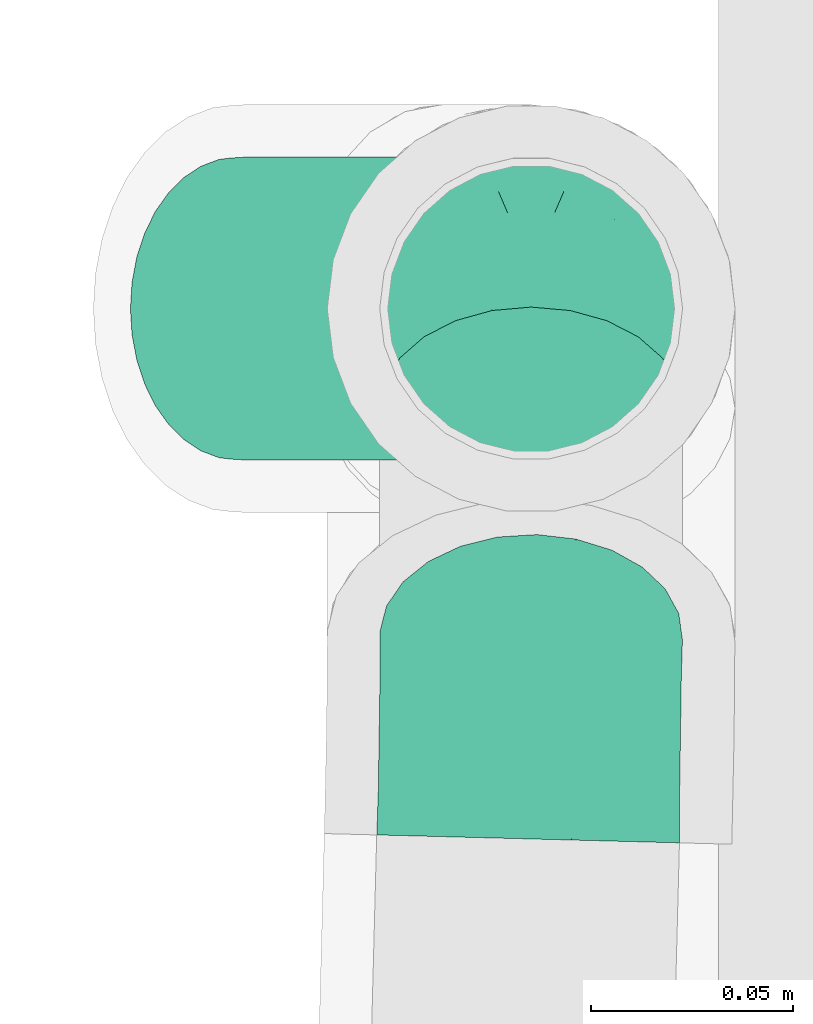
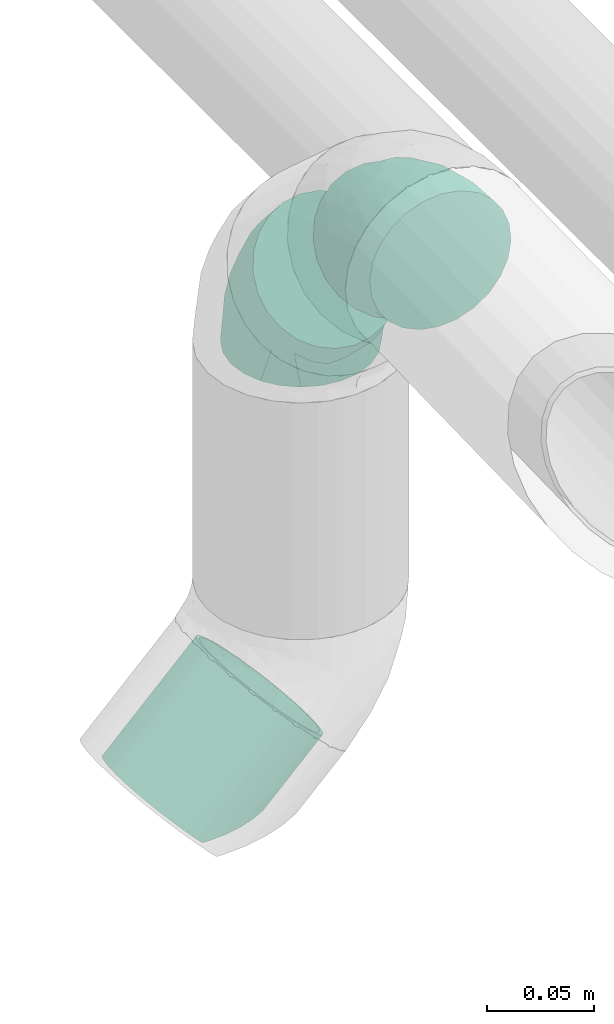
# One storey, part 146 of 156: 2 flow fittings, 1 flow segment.
"""IFC2X3 building model written with IfcOpenShell, lengths in millimetres."""

from ifc_helpers import new_model, entity, si_unit, converted_unit, derived_unit, direction, frame, origin_with_axes, place, context, subcontext, project, spatial, open_shell, faceted_brep, surface_model, source, transform, mapped, type_object, element, save


model = new_model("IFC2X3")

# Units and contexts
model_context = context("Model", 3, precision=0.01, world=frame((0.0, 4.29681676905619e-09, 0.0)), true_north=direction((4.01073788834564e-13, 1.0)))
plan_context = context("Plan", 3, precision=0.01, world=frame((0.0, 4.29681676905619e-09, 0.0)), true_north=direction((4.01073788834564e-13, 1.0)))
body_context = subcontext(model_context, "Body", "Model", "MODEL_VIEW")
ifc_project = project(units=[converted_unit("PLANEANGLEUNIT", "DEGREE", entity("IfcPositiveLengthMeasure", 0.0174532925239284), si_unit("PLANEANGLEUNIT", "RADIAN"), dimensions=[0, 0, 0, 0, 0, 0, 0]), si_unit("AREAUNIT", "SQUARE_METRE"), si_unit("LENGTHUNIT", "METRE", prefix="MILLI"), si_unit("MASSUNIT", "GRAM", prefix="KILO"), si_unit("POWERUNIT", "WATT"), si_unit("PRESSUREUNIT", "PASCAL", prefix="KILO"), si_unit("FORCEUNIT", "NEWTON", prefix="KILO"), si_unit("ELECTRICVOLTAGEUNIT", "VOLT"), si_unit("ELECTRICCURRENTUNIT", "AMPERE"), si_unit("THERMODYNAMICTEMPERATUREUNIT", "DEGREE_CELSIUS"), si_unit("TIMEUNIT", "SECOND"), si_unit("VOLUMEUNIT", "CUBIC_METRE"), derived_unit("LINEARVELOCITYUNIT", [(si_unit("LENGTHUNIT", "METRE"), 1), (si_unit("TIMEUNIT", "SECOND"), -1)]), derived_unit("VOLUMETRICFLOWRATEUNIT", [(si_unit("VOLUMEUNIT", "CUBIC_METRE"), 1), (si_unit("TIMEUNIT", "SECOND"), -1)]), derived_unit("THERMALTRANSMITTANCEUNIT", [(si_unit("POWERUNIT", "WATT"), 1), (si_unit("THERMODYNAMICTEMPERATUREUNIT", "KELVIN"), -1), (si_unit("AREAUNIT", "SQUARE_METRE"), -1)]), derived_unit("SOUNDPRESSUREUNIT", [(si_unit("PRESSUREUNIT", "PASCAL"), 1)])], contexts=[model_context, plan_context])

# Site, building, storey
site_placement = place(None, frame((0.0, -4.29681676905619e-09, 0.0), z_axis=(0.0, 0.0, 1.0), x_axis=(1.0, 0.0, 0.0)))
site = spatial("IfcSite", under=ifc_project, at=site_placement, CompositionType="ELEMENT")
building_placement = place(site_placement, frame((0.0, 4.29681676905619e-09, 0.0), z_axis=(0.0, 0.0, 1.0), x_axis=(1.0, 0.0, 0.0)))
building = spatial("IfcBuilding", under=site, at=building_placement, Name="mc-building", CompositionType="ELEMENT")
storey_placement = place(building_placement, frame((0.0, 0.0, 205200.0), z_axis=(0.0, 0.0, 1.0), x_axis=(1.0, 0.0, 0.0)))
storey = spatial("IfcBuildingStorey", under=building, at=storey_placement, Name="Nivå D + 1,2 m", CompositionType="ELEMENT", Elevation=205200.0)

# Flow fittings
pipe_fitting_type = type_object("IfcPipeFittingType", Name="magi_pipe_elbow_short_001", PredefinedType="BEND")
shared_shape_1 = source(origin_with_axes(), body_context, "Body", "SurfaceModel", [
    surface_model("IfcShellBasedSurfaceModel", [(-33.34172, 18.75, -32.47595), (-33.34172, 9.70571, -36.22222), (-33.34172, 0.0, -37.5), (-33.34172, 26.5165, -26.5165), (-33.34172, 36.22222, -9.70571), (-33.34172, 32.47595, -18.75), (-33.34172, -26.5165, -26.5165), (-33.34172, -32.47595, -18.75), (-33.34172, -18.75, -32.47595), (-33.34172, -9.70571, -36.22222), (-33.34172, -36.22222, -9.70571), (-33.34172, -37.5, 0.0), (-33.34172, -36.22222, 9.70571), (-33.34172, 36.22222, 9.70571), (-33.34172, 37.5, 0.0), (-33.34172, 26.5165, 26.5165), (-33.34172, 32.47595, 18.75), (-33.34172, 9.70571, 36.22222), (-33.34172, 18.75, 32.47595), (-33.34172, 0.0, 37.5), (-33.34172, -32.47595, 18.75), (-33.34172, -26.5165, 26.5165), (-33.34172, -18.75, 32.47595), (-33.34172, -9.70571, 36.22222), (22.33777, 24.75266, -37.5), (15.13231, 31.25515, -36.22222), (8.4179, 37.3145, -32.47595), (2.6521, 42.51778, -26.5165), (-1.77216, 46.5104, -18.75), (-4.55336, 49.02026, -9.70571), (46.44769, 2.99493, -18.75), (36.25764, 12.19083, -32.47595), (29.54322, 18.25018, -36.22222), (42.02344, 6.98754, -26.5165), (50.17751, -0.37101, 0.0), (49.22889, 0.48506, -9.70571), (49.22889, 0.48506, 9.70571), (2.6521, 42.51778, 26.5165), (-5.50197, 49.87633, 0.0), (-4.55336, 49.02026, 9.70571), (-1.77216, 46.5104, 18.75), (8.4179, 37.3145, 32.47595), (15.13231, 31.25515, 36.22222), (42.02344, 6.98754, 26.5165), (46.44769, 2.99493, 18.75), (36.25764, 12.19083, 32.47595), (29.54322, 18.25018, 36.22222), (22.33777, 24.75266, 37.5), (9.84589, -22.14767, 20.63086), (-9.65263, -21.08257, 28.84753), (-14.18705, -28.69201, 21.89222), (-14.83381, -34.90242, 0.0), (-2.37299, -33.15354, 0.0), (-9.38663, -34.38646, 6.23063), (30.80557, -8.69026, 21.89222), (-15.85298, -13.63716, 34.21622), (3.82453, -8.60302, 33.67881), (9.50684, 18.39593, 37.28531), (-12.80216, -3.56049, 36.98373), (-4.05464, 9.12064, 37.38738), (-20.02626, 5.26681, 37.28531), (-11.60667, 26.10843, 30.72816), (-18.68303, 31.44121, 23.72509), (20.74507, 2.63273, 34.21622), (-16.29432, 15.62002, 35.09195), (-7.38989, 33.97285, 26.57897), (5.46097, -27.30318, 14.89545), (-7.90331, -32.24576, 12.87247), (6.96624, -29.07566, 8.12786), (-16.73732, 37.6495, 15.54781), (31.81698, -16.06914, 6.23063), (35.84944, -12.37086, 0.0), (-15.74613, 40.92093, 7.95495), (11.91489, -26.80177, 0.0), (11.22027, 7.11883, 36.98373), (22.11847, -6.95853, 28.84753), (0.31382, 23.29122, 35.06101), (29.23396, -15.73615, 12.87247), (-18.10833, 40.73349, 0.0), (6.60802, -14.8643, 29.34792), (26.20277, -20.45001, 0.0), (19.568, -23.7626, 5.8407), (-12.80216, -3.56049, -36.98373), (6.96624, -29.07566, -8.12786), (-9.38663, -34.38646, -6.23063), (-7.90331, -32.24576, -12.87246), (11.22028, 7.11883, -36.98373), (-20.02626, 5.26681, -37.28531), (-10.82478, 34.93465, -23.72509), (-20.27025, 28.24681, -26.57897), (22.11848, -6.95853, -28.84753), (-16.73732, 37.6495, -15.54781), (29.23397, -15.73615, -12.87247), (-19.83006, 39.10538, -7.95495), (-0.67958, 22.56165, -35.09195), (-17.50149, 15.37131, -35.06101), (-11.60667, 26.10843, -30.72817), (-14.18705, -28.69201, -21.89222), (-9.65263, -21.08257, -28.84753), (6.60802, -14.8643, -29.34792), (9.84589, -22.14767, -20.63086), (-15.85298, -13.63716, -34.21622), (20.74507, 2.63273, -34.21622), (3.82453, -8.60302, -33.67881), (31.81698, -16.06914, -6.23063), (9.50684, 18.39593, -37.28531), (5.46097, -27.30318, -14.89545), (30.80557, -8.69026, -21.89222), (-4.05464, 9.12064, -37.38738), (19.568, -23.7626, -5.8407)], [open_shell([[[0, 1, 2]], [[3, 0, 2]], [[4, 5, 3]], [[6, 3, 2]], [[4, 3, 7]], [[8, 6, 9]], [[6, 2, 9]], [[10, 11, 7]], [[3, 6, 7]], [[7, 11, 12]], [[12, 4, 7]], [[13, 14, 15]], [[16, 13, 15]], [[17, 18, 15]], [[14, 17, 15]], [[19, 17, 14]], [[20, 21, 12]], [[22, 12, 21]], [[23, 19, 22]], [[12, 22, 19]], [[19, 14, 12]], [[4, 12, 14]], [[24, 25, 26]], [[24, 26, 27]], [[27, 28, 29]], [[24, 27, 30]], [[30, 27, 29]], [[24, 31, 32]], [[24, 33, 31]], [[30, 34, 35]], [[33, 24, 30]], [[30, 36, 34]], [[30, 29, 37]], [[37, 38, 39]], [[37, 39, 40]], [[37, 41, 42]], [[37, 36, 30]], [[36, 37, 42]], [[36, 43, 44]], [[43, 36, 45]], [[36, 46, 45]], [[46, 36, 47]], [[36, 42, 47]], [[37, 29, 38]], [[48, 49, 50]], [[51, 52, 53]], [[22, 21, 49]], [[44, 43, 54]], [[55, 49, 56]], [[50, 49, 21]], [[47, 42, 57]], [[23, 22, 55]], [[58, 59, 60]], [[19, 23, 58]], [[15, 61, 62]], [[45, 46, 63]], [[60, 17, 19]], [[18, 64, 61]], [[12, 51, 53]], [[37, 65, 41]], [[66, 67, 68]], [[61, 15, 18]], [[21, 20, 50]], [[16, 62, 69]], [[13, 16, 69]], [[36, 70, 71]], [[72, 14, 13]], [[53, 68, 67]], [[52, 73, 68]], [[18, 17, 64]], [[47, 57, 74]], [[43, 45, 75]], [[40, 39, 69]], [[47, 74, 46]], [[50, 67, 66]], [[43, 75, 54]], [[59, 57, 76]], [[75, 45, 63]], [[20, 67, 50]], [[70, 36, 77]], [[48, 54, 75]], [[60, 64, 17]], [[54, 48, 77]], [[13, 69, 72]], [[20, 12, 67]], [[78, 72, 38]], [[49, 79, 56]], [[39, 72, 69]], [[63, 74, 56]], [[40, 69, 62]], [[74, 58, 56]], [[62, 65, 40]], [[58, 74, 59]], [[42, 41, 76]], [[76, 61, 64]], [[55, 58, 23]], [[16, 15, 62]], [[77, 36, 44]], [[77, 44, 54]], [[79, 48, 75]], [[65, 62, 61]], [[61, 76, 41]], [[59, 76, 64]], [[49, 55, 22]], [[58, 55, 56]], [[74, 63, 46]], [[75, 63, 56]], [[12, 11, 51]], [[52, 68, 53]], [[12, 53, 67]], [[80, 70, 81]], [[81, 73, 80]], [[66, 77, 48]], [[71, 70, 80]], [[71, 34, 36]], [[77, 66, 81]], [[77, 81, 70]], [[73, 81, 68]], [[58, 60, 19]], [[64, 60, 59]], [[76, 57, 42]], [[74, 57, 59]], [[66, 68, 81]], [[50, 66, 48]], [[48, 79, 49]], [[75, 56, 79]], [[38, 72, 39]], [[72, 78, 14]], [[41, 65, 61]], [[40, 65, 37]], [[82, 9, 2]], [[83, 84, 85]], [[24, 32, 86]], [[1, 87, 2]], [[88, 89, 5]], [[31, 33, 90]], [[91, 88, 5]], [[30, 35, 92]], [[4, 93, 91]], [[26, 25, 94]], [[10, 84, 51]], [[0, 95, 1]], [[84, 10, 85]], [[27, 96, 88]], [[85, 7, 97]], [[97, 6, 98]], [[6, 8, 98]], [[99, 100, 98]], [[10, 7, 85]], [[6, 97, 7]], [[101, 8, 9]], [[102, 86, 32]], [[29, 28, 91]], [[82, 86, 103]], [[14, 78, 93]], [[100, 97, 98]], [[38, 29, 93]], [[101, 82, 103]], [[27, 26, 96]], [[91, 5, 4]], [[28, 88, 91]], [[101, 98, 8]], [[94, 96, 26]], [[87, 82, 2]], [[96, 94, 95]], [[89, 0, 3]], [[35, 71, 104]], [[105, 25, 24]], [[102, 32, 31]], [[106, 83, 85]], [[33, 107, 90]], [[103, 102, 90]], [[33, 30, 107]], [[108, 105, 86]], [[107, 100, 90]], [[86, 82, 108]], [[104, 71, 80]], [[105, 94, 25]], [[108, 87, 95]], [[83, 52, 84]], [[100, 106, 97]], [[90, 99, 103]], [[30, 92, 107]], [[29, 91, 93]], [[100, 107, 92]], [[28, 27, 88]], [[89, 88, 96]], [[96, 95, 0]], [[108, 95, 94]], [[82, 101, 9]], [[98, 101, 103]], [[90, 102, 31]], [[86, 102, 103]], [[51, 84, 52]], [[51, 11, 10]], [[52, 83, 73]], [[92, 109, 106]], [[83, 109, 73]], [[92, 104, 109]], [[35, 34, 71]], [[109, 104, 80]], [[35, 104, 92]], [[73, 109, 80]], [[109, 83, 106]], [[95, 87, 1]], [[82, 87, 108]], [[86, 105, 24]], [[94, 105, 108]], [[97, 106, 85]], [[92, 106, 100]], [[100, 99, 90]], [[98, 103, 99]], [[14, 93, 4]], [[93, 78, 38]], [[0, 89, 96]], [[5, 89, 3]]])]),
])
flow_fitting_1_placement = place(storey_placement, frame((347962.03069, 461168.55164, 4269.91381999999), z_axis=(1.0, 0.0, 0.0), x_axis=(0.0, 0.0, 1.0)))
element("IfcFlowFitting", 1, at=flow_fitting_1_placement, inside=storey, type_object=pipe_fitting_type, Name="magi_pipe_elbow_short_001", context=body_context, shape_type="MappedRepresentation", body=[
    mapped(shared_shape_1, transform((0.0, 0.0, 0.0), scale=1.0)),
])
shared_shape_2 = source(origin_with_axes(), body_context, "Body", "SurfaceModel", [
    surface_model("IfcShellBasedSurfaceModel", [(-28.85444, 18.75, -32.47595), (-28.85444, 9.70571, -36.22222), (-28.85444, 0.0, -37.5), (-28.85444, 26.5165, -26.5165), (-28.85444, 36.22222, -9.70571), (-28.85444, 32.47595, -18.75), (-28.85444, -26.5165, -26.5165), (-28.85444, -32.47595, -18.75), (-28.85444, -18.75, -32.47595), (-28.85444, -9.70571, -36.22222), (-28.85444, -36.22222, -9.70571), (-28.85444, -37.5, 0.0), (-28.85444, -36.22222, 9.70571), (-28.85444, 36.22222, 9.70571), (-28.85444, 37.5, 0.0), (-28.85444, 26.5165, 26.5165), (-28.85444, 32.47595, 18.75), (-28.85444, 9.70571, 36.22222), (-28.85444, 18.75, 32.47595), (-28.85444, 0.0, 37.5), (-28.85444, -32.47595, 18.75), (-28.85444, -26.5165, 26.5165), (-28.85444, -18.75, 32.47595), (-28.85444, -9.70571, 36.22222), (21.41401, 19.33957, -37.5), (14.90879, 26.54256, -36.22222), (8.84689, 33.25468, -32.47595), (3.64143, 39.0185, -26.5165), (45.6918, -7.54236, 9.70571), (-0.35287, 43.44124, -18.75), (39.18658, -0.33937, -26.5165), (43.18088, -4.76211, -18.75), (33.98112, 5.42446, -32.47595), (27.91922, 12.13658, -36.22222), (46.54823, -8.49065, 0.0), (45.6918, -7.54236, -9.70571), (-2.86379, 46.22149, -9.70571), (3.64143, 39.0185, 26.5165), (-3.72022, 47.16979, 0.0), (-2.86379, 46.22149, 9.70571), (-0.35287, 43.44124, 18.75), (8.84689, 33.25468, 32.47595), (14.90879, 26.54256, 36.22222), (39.18658, -0.33937, 26.5165), (43.18088, -4.76211, 18.75), (21.41401, 19.33957, 37.5), (33.98112, 5.42446, 32.47595), (27.91922, 12.13658, 36.22222), (-10.94248, -28.7915, 22.05899), (-5.56371, -32.62277, 13.16239), (9.19624, -23.90336, 21.14436), (-10.29122, -35.21601, 0.0), (-1.58358, -34.14463, 0.0), (-6.67335, -34.70291, 6.55375), (-6.95316, -21.29275, 29.01882), (27.41823, -14.03314, 22.05899), (5.96475, -15.50391, 30.38971), (-13.9275, -13.85486, 34.32553), (9.63491, 15.61759, 37.26011), (-9.59252, -3.65048, 37.02096), (-3.13118, 8.13873, 37.34906), (-17.61807, 5.13266, 37.26011), (19.43159, -11.14185, 29.01882), (19.6223, -0.94738, 34.32553), (-12.53282, 15.60013, 35.02469), (-9.75352, 25.35187, 30.50938), (13.01253, -25.97775, 15.12822), (11.18173, -29.06414, 8.60251), (-10.81517, 32.81063, 23.63301), (-14.06067, 37.03319, 15.2642), (28.21204, -21.2816, 6.55375), (31.2409, -19.23753, 0.0), (-14.40224, 39.50945, 7.80059), (25.99433, -20.48158, 13.16239), (10.12804, 4.06828, 37.0269), (1.88937, 21.85983, 34.9441), (-15.38935, 40.00083, 0.0), (3.82324, -9.93758, 33.91217), (11.23848, -29.21165, 0.0), (24.06054, -24.27868, 0.0), (-10.24316, -3.76905, -37.0269), (-6.67336, -34.70291, -6.55375), (11.18173, -29.06414, -8.60251), (9.5657, 3.72018, -37.02096), (-17.61807, 5.13266, -37.26011), (-13.96483, 31.59888, -23.63301), (-9.75352, 25.35187, -30.50938), (19.43159, -11.14185, -29.01882), (25.99433, -20.48158, -13.16239), (-14.38637, 36.90788, -15.2642), (-1.15482, 19.97754, -35.02469), (-16.05364, 14.95669, -34.9441), (-5.56371, -32.62277, -13.16239), (27.41823, -14.03314, -22.05899), (-10.94248, -28.7915, -22.05899), (9.19624, -23.90336, -21.14436), (7.75438, -28.00069, -15.12822), (-6.95316, -21.29275, -29.01882), (5.96475, -15.50391, -30.38971), (-13.9275, -13.85486, -34.32553), (19.6223, -0.94738, -34.32553), (3.82324, -9.93758, -33.91217), (-15.79258, 38.97455, -7.80059), (-3.13118, 8.13872, -37.34906), (28.21204, -21.2816, -6.55375), (9.63491, 15.61759, -37.26011)], [open_shell([[[0, 1, 2]], [[3, 0, 2]], [[4, 5, 3]], [[6, 3, 2]], [[4, 3, 7]], [[8, 6, 9]], [[6, 2, 9]], [[10, 11, 7]], [[3, 6, 7]], [[7, 11, 12]], [[12, 4, 7]], [[13, 14, 15]], [[16, 13, 15]], [[17, 18, 15]], [[14, 17, 15]], [[19, 17, 14]], [[20, 21, 12]], [[22, 12, 21]], [[23, 19, 22]], [[12, 22, 19]], [[19, 14, 12]], [[4, 12, 14]], [[24, 25, 26]], [[24, 26, 27]], [[28, 27, 29]], [[24, 27, 30]], [[28, 31, 27]], [[24, 32, 33]], [[24, 30, 32]], [[31, 34, 35]], [[31, 30, 27]], [[28, 34, 31]], [[36, 28, 29]], [[37, 38, 39]], [[37, 39, 40]], [[37, 41, 42]], [[38, 37, 28]], [[28, 37, 42]], [[28, 43, 44]], [[43, 28, 45]], [[46, 45, 47]], [[45, 46, 43]], [[28, 42, 45]], [[38, 28, 36]], [[48, 49, 50]], [[51, 52, 53]], [[22, 21, 54]], [[44, 43, 55]], [[54, 56, 57]], [[48, 21, 20]], [[45, 42, 58]], [[23, 22, 57]], [[59, 60, 61]], [[19, 23, 59]], [[62, 55, 43]], [[46, 47, 63]], [[61, 17, 19]], [[18, 64, 65]], [[12, 51, 53]], [[41, 37, 65]], [[66, 49, 67]], [[65, 15, 18]], [[48, 54, 21]], [[68, 15, 65]], [[16, 68, 69]], [[28, 70, 71]], [[72, 14, 13]], [[73, 66, 67]], [[49, 53, 67]], [[18, 17, 64]], [[74, 60, 59]], [[43, 46, 62]], [[15, 68, 16]], [[74, 47, 45]], [[16, 69, 13]], [[73, 44, 55]], [[60, 58, 75]], [[62, 46, 63]], [[72, 69, 39]], [[70, 28, 73]], [[49, 48, 20]], [[61, 64, 17]], [[55, 62, 50]], [[13, 69, 72]], [[20, 12, 49]], [[76, 72, 38]], [[56, 77, 57]], [[69, 68, 40]], [[77, 74, 59]], [[37, 40, 68]], [[77, 63, 74]], [[68, 65, 37]], [[74, 45, 58]], [[42, 41, 75]], [[75, 65, 64]], [[57, 59, 23]], [[69, 40, 39]], [[73, 28, 44]], [[54, 48, 50]], [[56, 50, 62]], [[55, 50, 66]], [[54, 57, 22]], [[59, 57, 77]], [[74, 63, 47]], [[63, 77, 56]], [[65, 75, 41]], [[60, 75, 64]], [[12, 11, 51]], [[67, 53, 52]], [[12, 53, 49]], [[78, 79, 67]], [[67, 79, 70]], [[71, 70, 79]], [[71, 34, 28]], [[67, 70, 73]], [[59, 61, 19]], [[64, 61, 60]], [[75, 58, 42]], [[74, 58, 60]], [[50, 56, 54]], [[63, 56, 62]], [[38, 72, 39]], [[72, 76, 14]], [[55, 66, 73]], [[49, 66, 50]], [[67, 52, 78]], [[9, 2, 80]], [[81, 82, 52]], [[24, 33, 83]], [[1, 84, 2]], [[85, 86, 3]], [[32, 30, 87]], [[5, 85, 3]], [[31, 35, 88]], [[5, 89, 85]], [[26, 25, 90]], [[10, 81, 51]], [[0, 91, 1]], [[81, 10, 92]], [[88, 93, 31]], [[94, 95, 96]], [[94, 92, 7]], [[6, 8, 97]], [[98, 95, 97]], [[10, 7, 92]], [[6, 94, 7]], [[99, 8, 9]], [[100, 83, 33]], [[5, 4, 89]], [[101, 99, 80]], [[14, 76, 102]], [[97, 94, 6]], [[38, 36, 102]], [[101, 80, 83]], [[27, 26, 86]], [[85, 89, 29]], [[85, 27, 86]], [[99, 97, 8]], [[90, 86, 26]], [[103, 83, 80]], [[86, 90, 91]], [[3, 86, 0]], [[35, 71, 104]], [[105, 25, 24]], [[100, 33, 32]], [[96, 88, 82]], [[31, 93, 30]], [[100, 87, 98]], [[93, 87, 30]], [[103, 105, 83]], [[95, 93, 88]], [[80, 2, 84]], [[104, 71, 79]], [[105, 90, 25]], [[103, 84, 91]], [[81, 92, 82]], [[94, 97, 95]], [[98, 101, 100]], [[102, 89, 4]], [[36, 89, 102]], [[29, 89, 36]], [[27, 85, 29]], [[87, 93, 95]], [[80, 99, 9]], [[99, 101, 98]], [[87, 100, 32]], [[83, 100, 101]], [[86, 91, 0]], [[103, 91, 90]], [[51, 81, 52]], [[51, 11, 10]], [[96, 82, 92]], [[104, 82, 88]], [[104, 79, 82]], [[35, 34, 71]], [[52, 82, 78]], [[35, 104, 88]], [[91, 84, 1]], [[80, 84, 103]], [[83, 105, 24]], [[90, 105, 103]], [[95, 98, 87]], [[99, 98, 97]], [[14, 102, 4]], [[102, 76, 38]], [[94, 96, 92]], [[88, 96, 95]], [[82, 79, 78]]])]),
])
flow_fitting_2_placement = place(storey_placement, frame((347962.03069, 461066.05164, 4362.41381999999), z_axis=(0.999238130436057, -0.0261470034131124, -0.0289740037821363), x_axis=(2.15974307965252e-07, -0.742392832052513, 0.669964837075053)))
element("IfcFlowFitting", 2, at=flow_fitting_2_placement, inside=storey, type_object=pipe_fitting_type, Name="magi_pipe_elbow_short_001", context=body_context, shape_type="MappedRepresentation", body=[
    mapped(shared_shape_2, transform((0.0, 0.0, 0.0), scale=1.0)),
])

# Flow segment
pipe_segment_type = type_object("IfcPipeSegmentType", Name="MA", PredefinedType="RIGIDSEGMENT")
flow_segment_placement = place(storey_placement, frame((347889.30448, 461168.55904, 3998.22696), z_axis=(-0.707106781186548, 0.0, 0.707106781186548), x_axis=(0.707106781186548, 0.0, 0.707106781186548)))
element("IfcFlowSegment", 3, at=flow_segment_placement, inside=storey, type_object=pipe_segment_type, Name="MA", context=body_context, shape_type="Brep", body=[
    faceted_brep([(8.67196752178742, 34.9606752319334, -6.16451030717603), (2.50745721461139, 35.5, 0.0), (71.5, 35.5, 0.0), (71.5, 34.9606752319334, -6.16451030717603), (14.6491723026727, 33.3590880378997, -12.1417150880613), (71.5, 33.3590880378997, -12.1417150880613), (20.2574572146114, 30.7439018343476, -17.75), (71.5, 30.7439018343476, -17.75), (25.3264173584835, 27.1945777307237, -22.8189601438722), (71.5, 27.1945777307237, -22.8189601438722), (29.7020349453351, 22.8189601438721, -27.1945777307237), (71.5, 22.8189601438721, -27.1945777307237), (33.251359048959, 17.75, -30.7439018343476), (71.5, 17.75, -30.7439018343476), (35.8665452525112, 12.1417150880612, -33.3590880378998), (71.5, 12.1417150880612, -33.3590880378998), (37.4681324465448, 6.16451030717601, -34.9606752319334), (71.5, 6.16451030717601, -34.9606752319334), (38.0074572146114, -6.52124420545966e-15, -35.5), (71.5, -6.52124420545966e-15, -35.5), (37.4681324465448, -6.16451030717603, -34.9606752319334), (71.5, -6.16451030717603, -34.9606752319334), (35.8665452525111, -12.1417150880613, -33.3590880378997), (71.5, -12.1417150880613, -33.3590880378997), (33.251359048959, -17.75, -30.7439018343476), (71.5, -17.75, -30.7439018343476), (29.7020349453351, -22.8189601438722, -27.1945777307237), (71.5, -22.8189601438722, -27.1945777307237), (25.3264173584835, -27.1945777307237, -22.8189601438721), (71.5, -27.1945777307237, -22.8189601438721), (20.2574572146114, -30.7439018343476, -17.75), (71.5, -30.7439018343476, -17.75), (14.6491723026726, -33.3590880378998, -12.1417150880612), (71.5, -33.3590880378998, -12.1417150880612), (8.67196752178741, -34.9606752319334, -6.16451030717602), (71.5, -34.9606752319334, -6.16451030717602), (2.50745721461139, -35.5, 4.3474961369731e-15), (71.5, -35.5, 4.3474961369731e-15), (0.0, -35.2806259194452, 2.5074572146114), (71.5, -34.9606752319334, 6.16451030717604), (0.0, -34.9606752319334, 6.16451030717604), (71.5, -33.3590880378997, 12.1417150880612), (0.0, -33.3590880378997, 12.1417150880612), (71.5, -30.7439018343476, 17.75), (0.0, -30.7439018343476, 17.75), (71.5, -27.1945777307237, 22.8189601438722), (0.0, -27.1945777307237, 22.8189601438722), (71.5, -22.8189601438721, 27.1945777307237), (0.0, -22.8189601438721, 27.1945777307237), (71.5, -17.75, 30.7439018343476), (0.0, -17.75, 30.7439018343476), (71.5, -12.1417150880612, 33.3590880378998), (0.0, -12.1417150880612, 33.3590880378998), (71.5, -6.16451030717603, 34.9606752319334), (0.0, -6.16451030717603, 34.9606752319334), (71.5, 2.17374806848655e-15, 35.5), (0.0, 2.17374806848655e-15, 35.5), (71.5, 6.16451030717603, 34.9606752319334), (0.0, 6.16451030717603, 34.9606752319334), (71.5, 12.1417150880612, 33.3590880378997), (0.0, 12.1417150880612, 33.3590880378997), (71.5, 17.75, 30.7439018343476), (0.0, 17.75, 30.7439018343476), (71.5, 22.8189601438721, 27.1945777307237), (0.0, 22.8189601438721, 27.1945777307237), (71.5, 27.1945777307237, 22.8189601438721), (0.0, 27.1945777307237, 22.8189601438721), (71.5, 30.7439018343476, 17.75), (0.0, 30.7439018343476, 17.75), (71.5, 33.3590880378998, 12.1417150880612), (0.0, 33.3590880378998, 12.1417150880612), (71.5, 34.9606752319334, 6.16451030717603), (0.0, 34.9606752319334, 6.16451030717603), (0.0, 35.2806259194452, 2.5074572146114), (2.50745721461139, 37.5, 0.0), (9.01926387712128, 36.9302907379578, -6.51180666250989), (71.5, 36.9302907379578, -6.51180666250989), (71.5, 37.5, 0.0), (0.0, 37.2806259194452, 2.50745721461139), (71.5, 36.9302907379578, 6.51180666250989), (0.0, 36.9302907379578, 6.51180666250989), (71.5, 35.2384732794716, 12.8257553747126), (0.0, 35.2384732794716, 12.8257553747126), (71.5, 32.4759526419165, 18.75), (0.0, 32.4759526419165, 18.75), (71.5, 28.7266666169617, 24.1045353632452), (0.0, 28.7266666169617, 24.1045353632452), (71.5, 24.1045353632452, 28.7266666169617), (0.0, 24.1045353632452, 28.7266666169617), (71.5, 18.75, 32.4759526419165), (0.0, 18.75, 32.4759526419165), (71.5, 12.8257553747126, 35.2384732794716), (0.0, 12.8257553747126, 35.2384732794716), (71.5, 6.51180666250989, 36.9302907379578), (0.0, 6.51180666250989, 36.9302907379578), (71.5, 2.29621274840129e-15, 37.5), (0.0, 2.29621274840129e-15, 37.5), (71.5, -6.51180666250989, 36.9302907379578), (0.0, -6.51180666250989, 36.9302907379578), (71.5, -12.8257553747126, 35.2384732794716), (0.0, -12.8257553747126, 35.2384732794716), (71.5, -18.75, 32.4759526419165), (0.0, -18.75, 32.4759526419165), (71.5, -24.1045353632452, 28.7266666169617), (0.0, -24.1045353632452, 28.7266666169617), (71.5, -28.7266666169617, 24.1045353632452), (0.0, -28.7266666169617, 24.1045353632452), (71.5, -32.4759526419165, 18.75), (0.0, -32.4759526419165, 18.75), (71.5, -35.2384732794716, 12.8257553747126), (0.0, -35.2384732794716, 12.8257553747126), (71.5, -36.9302907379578, 6.5118066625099), (0.0, -36.9302907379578, 6.5118066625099), (2.50745721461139, -37.5, 4.59242549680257e-15), (0.0, -37.2806259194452, 2.5074572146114), (71.5, -37.5, 4.59242549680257e-15), (9.01926387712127, -36.9302907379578, -6.51180666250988), (71.5, -36.9302907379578, -6.51180666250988), (15.333212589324, -35.2384732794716, -12.8257553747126), (71.5, -35.2384732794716, -12.8257553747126), (21.2574572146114, -32.4759526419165, -18.75), (71.5, -32.4759526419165, -18.75), (26.6119925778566, -28.7266666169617, -24.1045353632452), (71.5, -28.7266666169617, -24.1045353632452), (31.2341238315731, -24.1045353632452, -28.7266666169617), (71.5, -24.1045353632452, -28.7266666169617), (34.9834098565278, -18.75, -32.4759526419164), (71.5, -18.75, -32.4759526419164), (37.7459304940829, -12.8257553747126, -35.2384732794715), (71.5, -12.8257553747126, -35.2384732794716), (39.4377479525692, -6.51180666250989, -36.9302907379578), (71.5, -6.51180666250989, -36.9302907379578), (40.0074572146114, -6.88863824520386e-15, -37.5), (71.5, -6.88863824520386e-15, -37.5), (39.4377479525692, 6.51180666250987, -36.9302907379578), (71.5, 6.51180666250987, -36.9302907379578), (37.745930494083, 12.8257553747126, -35.2384732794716), (71.5, 12.8257553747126, -35.2384732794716), (34.9834098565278, 18.75, -32.4759526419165), (71.5, 18.75, -32.4759526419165), (31.2341238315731, 24.1045353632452, -28.7266666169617), (71.5, 24.1045353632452, -28.7266666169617), (26.6119925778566, 28.7266666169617, -24.1045353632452), (71.5, 28.7266666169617, -24.1045353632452), (21.2574572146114, 32.4759526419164, -18.75), (71.5, 32.4759526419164, -18.75), (15.333212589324, 35.2384732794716, -12.8257553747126), (71.5, 35.2384732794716, -12.8257553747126)], [[[0, 1, 2, 3]], [[4, 0, 3, 5]], [[6, 4, 5, 7]], [[8, 6, 7, 9]], [[10, 8, 9, 11]], [[12, 10, 11, 13]], [[14, 12, 13, 15]], [[16, 14, 15, 17]], [[18, 16, 17, 19]], [[20, 18, 19, 21]], [[22, 20, 21, 23]], [[24, 22, 23, 25]], [[26, 24, 25, 27]], [[28, 26, 27, 29]], [[30, 28, 29, 31]], [[32, 30, 31, 33]], [[34, 32, 33, 35]], [[36, 34, 35, 37]], [[38, 36, 37, 39, 40]], [[40, 39, 41, 42]], [[42, 41, 43, 44]], [[44, 43, 45, 46]], [[46, 45, 47, 48]], [[48, 47, 49, 50]], [[50, 49, 51, 52]], [[52, 51, 53, 54]], [[54, 53, 55, 56]], [[56, 55, 57, 58]], [[58, 57, 59, 60]], [[60, 59, 61, 62]], [[62, 61, 63, 64]], [[64, 63, 65, 66]], [[66, 65, 67, 68]], [[68, 67, 69, 70]], [[70, 69, 71, 72]], [[1, 73, 72, 71, 2]], [[74, 75, 76, 77]], [[78, 74, 77, 79, 80]], [[80, 79, 81, 82]], [[82, 81, 83, 84]], [[84, 83, 85, 86]], [[86, 85, 87, 88]], [[88, 87, 89, 90]], [[90, 89, 91, 92]], [[92, 91, 93, 94]], [[94, 93, 95, 96]], [[96, 95, 97, 98]], [[98, 97, 99, 100]], [[100, 99, 101, 102]], [[102, 101, 103, 104]], [[104, 103, 105, 106]], [[106, 105, 107, 108]], [[108, 107, 109, 110]], [[110, 109, 111, 112]], [[113, 114, 112, 111, 115]], [[116, 113, 115, 117]], [[118, 116, 117, 119]], [[120, 118, 119, 121]], [[122, 120, 121, 123]], [[124, 122, 123, 125]], [[126, 124, 125, 127]], [[128, 126, 127, 129]], [[130, 128, 129, 131]], [[132, 130, 131, 133]], [[134, 132, 133, 135]], [[136, 134, 135, 137]], [[138, 136, 137, 139]], [[140, 138, 139, 141]], [[142, 140, 141, 143]], [[144, 142, 143, 145]], [[146, 144, 145, 147]], [[75, 146, 147, 76]], [[114, 38, 40, 42, 44, 46, 48, 50, 52, 54, 56, 58, 60, 62, 64, 66, 68, 70, 72, 73, 78, 80, 82, 84, 86, 88, 90, 92, 94, 96, 98, 100, 102, 104, 106, 108, 110, 112]], [[77, 76, 147, 145, 143, 141, 139, 137, 135, 133, 131, 129, 127, 125, 123, 121, 119, 117, 115, 111, 109, 107, 105, 103, 101, 99, 97, 95, 93, 91, 89, 87, 85, 83, 81, 79], [2, 71, 69, 67, 65, 63, 61, 59, 57, 55, 53, 51, 49, 47, 45, 43, 41, 39, 37, 35, 33, 31, 29, 27, 25, 23, 21, 19, 17, 15, 13, 11, 9, 7, 5, 3]], [[4, 6, 8, 10, 12, 14, 16, 18, 20, 22, 24, 26, 28, 30, 32, 34, 36, 38, 114, 113, 116, 118, 120, 122, 124, 126, 128, 130, 132, 134, 136, 138, 140, 142, 144, 146, 75, 74, 78, 73, 1, 0]]], orient=[[False], [False], [False], [False], [False], [False], [False], [False], [False], [False], [False], [False], [False], [False], [False], [False], [False], [False], [False], [False], [False], [False], [False], [False], [False], [False], [False], [False], [False], [False], [False], [False], [False], [False], [False], [False], [False], [False], [False], [False], [False], [False], [False], [False], [False], [False], [False], [False], [False], [False], [False], [False], [False], [False], [False], [False], [False], [False], [False], [False], [False], [False], [False], [False], [False], [False], [False], [False], [False], [False], [False], [False], [False], [False, False], [False]]),
])

save(model, "model.ifc")
